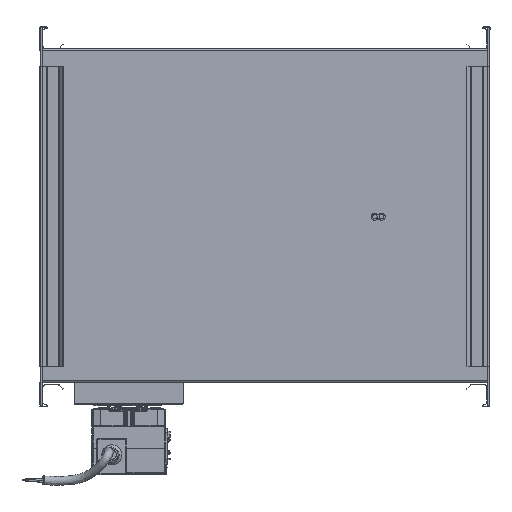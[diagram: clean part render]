
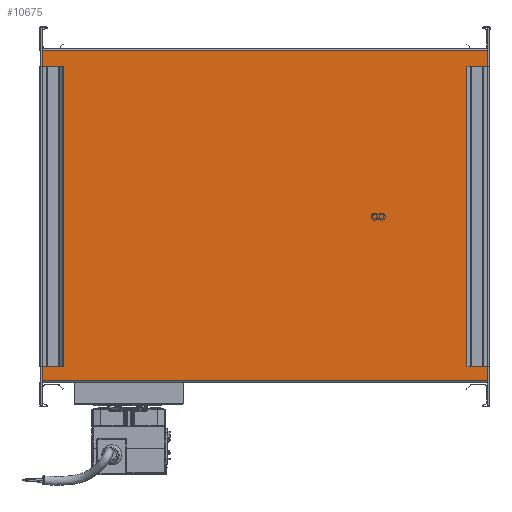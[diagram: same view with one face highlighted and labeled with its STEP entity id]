
A CAD part, front view. The second image highlights one B-rep face of the part: STEP entity #10675.
In plain terms, the highlighted planar face has unit normal (0, -1, 0).
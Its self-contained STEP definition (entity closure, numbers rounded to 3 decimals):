
#780 = CARTESIAN_POINT ( 'NONE',  ( 155.577, -135.848, 952. ) ) ;
#974 = DIRECTION ( 'NONE',  ( 1., 0., 0. ) ) ;
#1021 = FACE_OUTER_BOUND ( 'NONE', #1201, .T. ) ;
#1201 = EDGE_LOOP ( 'NONE', ( #50683, #62374, #40215, #21224 ) ) ;
#1564 = CARTESIAN_POINT ( 'NONE',  ( -244.423, -135.848, 952. ) ) ;
#9271 = CARTESIAN_POINT ( 'NONE',  ( -244.423, -135.848, 1248. ) ) ;
#9401 = LINE ( 'NONE', #73922, #63067 ) ;
#10675 = ADVANCED_FACE ( 'NONE', ( #1021 ), #28748, .T. ) ;
#12693 = VECTOR ( 'NONE', #77884, 1000. ) ;
#14721 = VERTEX_POINT ( 'NONE', #9271 ) ;
#15201 = DIRECTION ( 'NONE',  ( 1., 0., 0. ) ) ;
#21224 = ORIENTED_EDGE ( 'NONE', *, *, #81440, .T. ) ;
#28748 = PLANE ( 'NONE',  #29677 ) ;
#29677 = AXIS2_PLACEMENT_3D ( 'NONE', #37675, #45229, #58419 ) ;
#30130 = VERTEX_POINT ( 'NONE', #41535 ) ;
#37675 = CARTESIAN_POINT ( 'NONE',  ( -244.423, -135.848, 952. ) ) ;
#40215 = ORIENTED_EDGE ( 'NONE', *, *, #60185, .T. ) ;
#41535 = CARTESIAN_POINT ( 'NONE',  ( 155.577, -135.848, 1248. ) ) ;
#44696 = CARTESIAN_POINT ( 'NONE',  ( -244.423, -135.848, 1248. ) ) ;
#45157 = VERTEX_POINT ( 'NONE', #780 ) ;
#45229 = DIRECTION ( 'NONE',  ( 0., -1., 0. ) ) ;
#49343 = VECTOR ( 'NONE', #974, 1000. ) ;
#50683 = ORIENTED_EDGE ( 'NONE', *, *, #73878, .F. ) ;
#57602 = CARTESIAN_POINT ( 'NONE',  ( 155.577, -135.848, 952. ) ) ;
#58419 = DIRECTION ( 'NONE',  ( -1., 0., 0. ) ) ;
#60185 = EDGE_CURVE ( 'NONE', #14721, #70383, #9401, .T. ) ;
#62374 = ORIENTED_EDGE ( 'NONE', *, *, #87932, .F. ) ;
#63067 = VECTOR ( 'NONE', #88531, 1000. ) ;
#65588 = LINE ( 'NONE', #79744, #65929 ) ;
#65929 = VECTOR ( 'NONE', #15201, 1000. ) ;
#70383 = VERTEX_POINT ( 'NONE', #1564 ) ;
#72554 = LINE ( 'NONE', #44696, #49343 ) ;
#73878 = EDGE_CURVE ( 'NONE', #30130, #45157, #85916, .T. ) ;
#73922 = CARTESIAN_POINT ( 'NONE',  ( -244.423, -135.848, 952. ) ) ;
#77884 = DIRECTION ( 'NONE',  ( 0., 0., -1. ) ) ;
#79744 = CARTESIAN_POINT ( 'NONE',  ( -244.423, -135.848, 952. ) ) ;
#81440 = EDGE_CURVE ( 'NONE', #70383, #45157, #65588, .T. ) ;
#85916 = LINE ( 'NONE', #57602, #12693 ) ;
#87932 = EDGE_CURVE ( 'NONE', #14721, #30130, #72554, .T. ) ;
#88531 = DIRECTION ( 'NONE',  ( 0., 0., -1. ) ) ;
